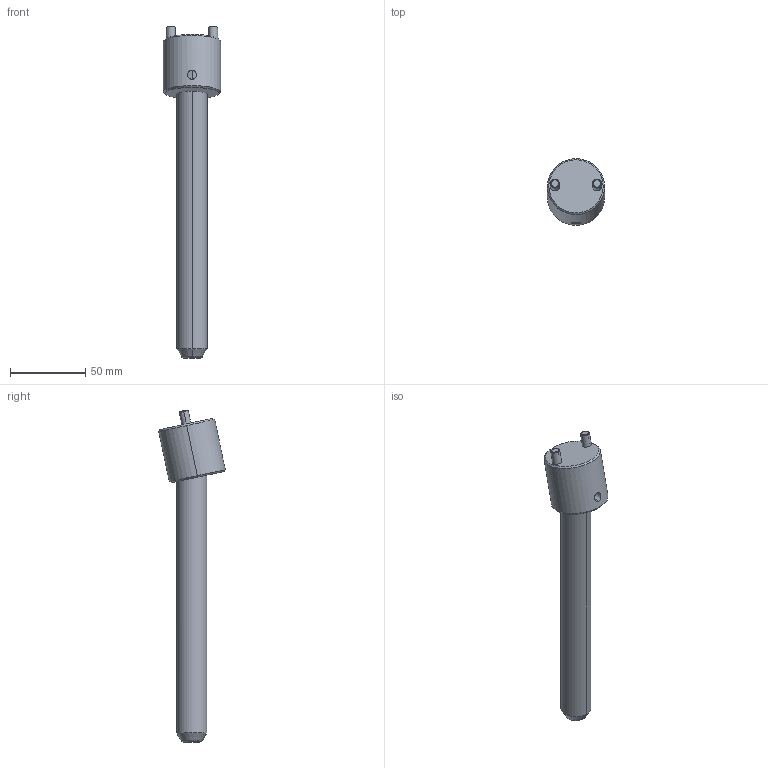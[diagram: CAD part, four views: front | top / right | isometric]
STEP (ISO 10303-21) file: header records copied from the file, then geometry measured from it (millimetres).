
FILE_DESCRIPTION(('CATIA V5 STEP Exchange'),'2;1');
FILE_NAME('C:\Users\Raffaele\Desktop\3D BOLEX\3D FILES CF BOLEX\19-INCLINED ASSEMBLY REF_CI\CI1220175.stp','2019-06-21T14:06:58+00:00',('none'),('none'),'CATIA Version 5 Release 20 GA (IN-10)','CATIA V5 STEP AP203','none');
FILE_SCHEMA(('CONFIG_CONTROL_DESIGN'));
Length unit declared in the file: millimetre
Products named in the file (1): CI1220175
Assembly tree (2 placements, depth 2):
  CI1220175
    #58
    #572
Bounding box: 38 x 44.24 x 220.37 mm (x, y, z)
Volume: 95080.9 mm3; surface area: 22441 mm2
Topology: 2 solids, 4 shells, 43 faces, 94 edges, 55 vertices
Faces by surface type: cylinder 18, cone 14, plane 7, torus 4
Entity records: 1636 total; most frequent: CARTESIAN_POINT 673, ORIENTED_EDGE 176, DIRECTION 164, EDGE_CURVE 92, AXIS2_PLACEMENT_3D 83, VERTEX_POINT 55, EDGE_LOOP 47, ADVANCED_FACE 43
